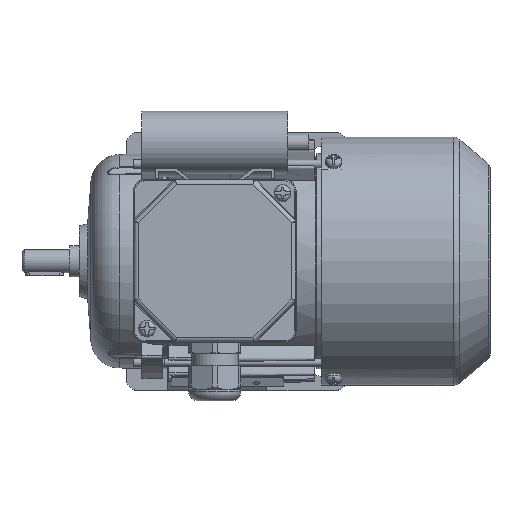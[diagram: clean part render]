
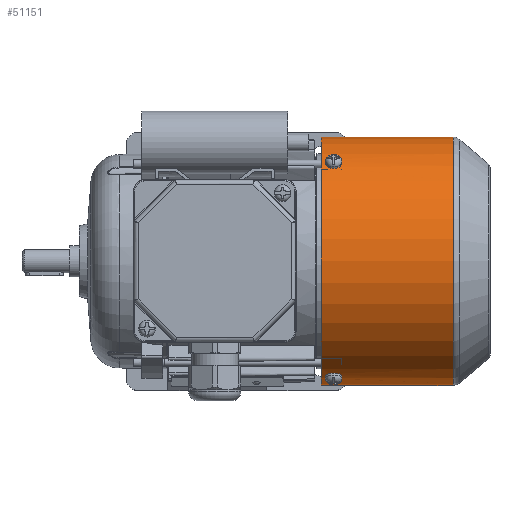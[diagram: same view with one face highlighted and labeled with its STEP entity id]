
A CAD part, top view. The second image highlights one B-rep face of the part: STEP entity #51151.
In plain terms, the highlighted cylindrical face has radius 59.6 mm (diameter 119.2 mm), a full revolution.
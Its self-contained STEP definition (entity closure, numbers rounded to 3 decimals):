
#1107=B_SPLINE_CURVE_WITH_KNOTS('',3,(#77793,#77794,#77795,#77796,#77797,
#77798,#77799),.UNSPECIFIED.,.F.,.F.,(4,1,1,1,4),(0.,0.002,
0.004,0.006,0.008),
 .UNSPECIFIED.);
#1109=B_SPLINE_CURVE_WITH_KNOTS('',3,(#77817,#77818,#77819,#77820,#77821,
#77822,#77823),.UNSPECIFIED.,.F.,.F.,(4,1,1,1,4),(0.,0.002,
0.004,0.006,0.008),
 .UNSPECIFIED.);
#1111=B_SPLINE_CURVE_WITH_KNOTS('',3,(#77845,#77846,#77847,#77848,#77849,
#77850,#77851),.UNSPECIFIED.,.F.,.F.,(4,1,1,1,4),(0.,0.002,
0.004,0.006,0.008),
 .UNSPECIFIED.);
#1113=B_SPLINE_CURVE_WITH_KNOTS('',3,(#77869,#77870,#77871,#77872,#77873,
#77874,#77875),.UNSPECIFIED.,.F.,.F.,(4,1,1,1,4),(0.,0.002,
0.004,0.006,0.008),
 .UNSPECIFIED.);
#1114=B_SPLINE_CURVE_WITH_KNOTS('',3,(#77880,#77881,#77882,#77883,#77884,
#77885,#77886),.UNSPECIFIED.,.F.,.F.,(4,1,1,1,4),(0.,0.002,
0.004,0.006,0.007),
 .UNSPECIFIED.);
#1115=B_SPLINE_CURVE_WITH_KNOTS('',3,(#77889,#77890,#77891,#77892,#77893,
#77894,#77895),.UNSPECIFIED.,.F.,.F.,(4,1,1,1,4),(0.,
0.002,0.004,0.006,0.007),
 .UNSPECIFIED.);
#1972=CYLINDRICAL_SURFACE('',#54551,59.6);
#2927=CIRCLE('',#53235,59.6);
#3572=CIRCLE('',#54535,59.6);
#3574=CIRCLE('',#54540,59.6);
#3575=CIRCLE('',#54542,59.6);
#3577=CIRCLE('',#54546,59.6);
#3579=CIRCLE('',#54550,59.6);
#12077=ORIENTED_EDGE('',*,*,#18987,.T.);
#12078=ORIENTED_EDGE('',*,*,#18984,.T.);
#12079=ORIENTED_EDGE('',*,*,#18992,.T.);
#12080=ORIENTED_EDGE('',*,*,#18990,.T.);
#12081=ORIENTED_EDGE('',*,*,#19006,.F.);
#12082=ORIENTED_EDGE('',*,*,#19007,.F.);
#12083=ORIENTED_EDGE('',*,*,#19000,.T.);
#12084=ORIENTED_EDGE('',*,*,#18997,.T.);
#12085=ORIENTED_EDGE('',*,*,#19005,.T.);
#12086=ORIENTED_EDGE('',*,*,#19003,.T.);
#12087=ORIENTED_EDGE('',*,*,#17146,.F.);
#12088=ORIENTED_EDGE('',*,*,#18993,.T.);
#17146=EDGE_CURVE('',#21849,#21849,#2927,.T.);
#18984=EDGE_CURVE('',#23085,#23088,#1107,.T.);
#18987=EDGE_CURVE('',#23089,#23085,#3572,.F.);
#18990=EDGE_CURVE('',#23091,#23089,#1109,.T.);
#18992=EDGE_CURVE('',#23088,#23091,#3574,.F.);
#18993=EDGE_CURVE('',#23093,#23093,#3575,.F.);
#18997=EDGE_CURVE('',#23094,#23097,#1111,.T.);
#19000=EDGE_CURVE('',#23098,#23094,#3577,.F.);
#19003=EDGE_CURVE('',#23100,#23098,#1113,.T.);
#19005=EDGE_CURVE('',#23097,#23100,#3579,.F.);
#19006=EDGE_CURVE('',#23102,#23103,#1114,.T.);
#19007=EDGE_CURVE('',#23103,#23102,#1115,.T.);
#21849=VERTEX_POINT('',#72689);
#23085=VERTEX_POINT('',#77781);
#23088=VERTEX_POINT('',#77792);
#23089=VERTEX_POINT('',#77802);
#23091=VERTEX_POINT('',#77808);
#23093=VERTEX_POINT('',#77830);
#23094=VERTEX_POINT('',#77833);
#23097=VERTEX_POINT('',#77844);
#23098=VERTEX_POINT('',#77854);
#23100=VERTEX_POINT('',#77860);
#23102=VERTEX_POINT('',#77887);
#23103=VERTEX_POINT('',#77888);
#31235=EDGE_LOOP('',(#12077,#12078,#12079,#12080));
#31236=EDGE_LOOP('',(#12081,#12082));
#31237=EDGE_LOOP('',(#12083,#12084,#12085,#12086));
#31238=EDGE_LOOP('',(#12087));
#31239=EDGE_LOOP('',(#12088));
#33660=FACE_BOUND('',#31235,.T.);
#33661=FACE_BOUND('',#31236,.T.);
#33662=FACE_BOUND('',#31237,.T.);
#33663=FACE_BOUND('',#31238,.T.);
#33664=FACE_BOUND('',#31239,.T.);
#51151=ADVANCED_FACE('',(#33660,#33661,#33662,#33663,#33664),#1972,.T.);
#53235=AXIS2_PLACEMENT_3D('',#72688,#59727,#59728);
#54535=AXIS2_PLACEMENT_3D('',#77805,#63237,#63238);
#54540=AXIS2_PLACEMENT_3D('',#77827,#63248,#63249);
#54542=AXIS2_PLACEMENT_3D('',#77829,#63252,#63253);
#54546=AXIS2_PLACEMENT_3D('',#77857,#63263,#63264);
#54550=AXIS2_PLACEMENT_3D('',#77878,#63272,#63273);
#54551=AXIS2_PLACEMENT_3D('',#77879,#63274,#63275);
#59727=DIRECTION('',(-1.,0.,0.));
#59728=DIRECTION('',(0.,0.,1.));
#63237=DIRECTION('',(-1.,0.,0.));
#63238=DIRECTION('',(0.,0.866,-0.5));
#63248=DIRECTION('',(1.,0.,0.));
#63249=DIRECTION('',(0.,-0.866,0.5));
#63252=DIRECTION('',(1.,0.,0.));
#63253=DIRECTION('',(0.,0.,-1.));
#63263=DIRECTION('',(-1.,0.,0.));
#63264=DIRECTION('',(0.,0.,1.));
#63272=DIRECTION('',(1.,0.,0.));
#63273=DIRECTION('',(0.,0.,-1.));
#63274=DIRECTION('',(-1.,0.,0.));
#63275=DIRECTION('',(0.,0.,1.));
#72688=CARTESIAN_POINT('',(43.5,0.,0.));
#72689=CARTESIAN_POINT('',(43.5,0.,59.6));
#77781=CARTESIAN_POINT('',(52.,46.437,37.36));
#77792=CARTESIAN_POINT('',(47.,46.437,37.36));
#77793=CARTESIAN_POINT('',(52.,46.437,37.36));
#77794=CARTESIAN_POINT('',(52.,46.023,37.874));
#77795=CARTESIAN_POINT('',(51.458,45.191,38.867));
#77796=CARTESIAN_POINT('',(49.502,44.648,39.479));
#77797=CARTESIAN_POINT('',(47.542,45.19,38.869));
#77798=CARTESIAN_POINT('',(47.,46.023,37.874));
#77799=CARTESIAN_POINT('',(47.,46.437,37.36));
#77802=CARTESIAN_POINT('',(52.,47.484,36.02));
#77805=CARTESIAN_POINT('',(52.,0.,0.));
#77808=CARTESIAN_POINT('',(47.,47.484,36.02));
#77817=CARTESIAN_POINT('',(47.,47.484,36.02));
#77818=CARTESIAN_POINT('',(47.,47.883,35.493));
#77819=CARTESIAN_POINT('',(47.542,48.645,34.446));
#77820=CARTESIAN_POINT('',(49.498,49.108,33.771));
#77821=CARTESIAN_POINT('',(51.458,48.646,34.444));
#77822=CARTESIAN_POINT('',(52.,47.883,35.493));
#77823=CARTESIAN_POINT('',(52.,47.484,36.02));
#77827=CARTESIAN_POINT('',(47.,0.,0.));
#77829=CARTESIAN_POINT('',(106.809,0.,0.));
#77830=CARTESIAN_POINT('',(106.809,0.,-59.6));
#77833=CARTESIAN_POINT('',(52.,-55.573,21.536));
#77844=CARTESIAN_POINT('',(47.,-55.573,21.536));
#77845=CARTESIAN_POINT('',(52.,-55.573,21.536));
#77846=CARTESIAN_POINT('',(52.,-55.812,20.92));
#77847=CARTESIAN_POINT('',(51.458,-56.255,19.703));
#77848=CARTESIAN_POINT('',(49.502,-56.514,18.927));
#77849=CARTESIAN_POINT('',(47.542,-56.256,19.701));
#77850=CARTESIAN_POINT('',(47.,-55.812,20.92));
#77851=CARTESIAN_POINT('',(47.,-55.573,21.536));
#77854=CARTESIAN_POINT('',(52.,-54.936,23.112));
#77857=CARTESIAN_POINT('',(52.,0.,0.));
#77860=CARTESIAN_POINT('',(47.,-54.936,23.112));
#77869=CARTESIAN_POINT('',(47.,-54.936,23.112));
#77870=CARTESIAN_POINT('',(47.,-54.68,23.721));
#77871=CARTESIAN_POINT('',(47.542,-54.154,24.905));
#77872=CARTESIAN_POINT('',(49.498,-53.8,25.643));
#77873=CARTESIAN_POINT('',(51.458,-54.153,24.907));
#77874=CARTESIAN_POINT('',(52.,-54.68,23.721));
#77875=CARTESIAN_POINT('',(52.,-54.936,23.112));
#77878=CARTESIAN_POINT('',(47.,0.,0.));
#77879=CARTESIAN_POINT('',(-16.5,0.,0.));
#77880=CARTESIAN_POINT('',(52.,8.295,-59.02));
#77881=CARTESIAN_POINT('',(51.937,7.681,-59.106));
#77882=CARTESIAN_POINT('',(51.356,6.499,-59.249));
#77883=CARTESIAN_POINT('',(49.502,5.777,-59.318));
#77884=CARTESIAN_POINT('',(47.649,6.493,-59.25));
#77885=CARTESIAN_POINT('',(47.063,7.681,-59.106));
#77886=CARTESIAN_POINT('',(47.,8.295,-59.02));
#77887=CARTESIAN_POINT('',(52.,8.295,-59.02));
#77888=CARTESIAN_POINT('',(47.,8.295,-59.02));
#77889=CARTESIAN_POINT('',(47.,8.295,-59.02));
#77890=CARTESIAN_POINT('',(47.063,8.908,-58.934));
#77891=CARTESIAN_POINT('',(47.644,10.084,-58.746));
#77892=CARTESIAN_POINT('',(49.498,10.797,-58.613));
#77893=CARTESIAN_POINT('',(51.351,10.09,-58.745));
#77894=CARTESIAN_POINT('',(51.937,8.908,-58.934));
#77895=CARTESIAN_POINT('',(52.,8.295,-59.02));
